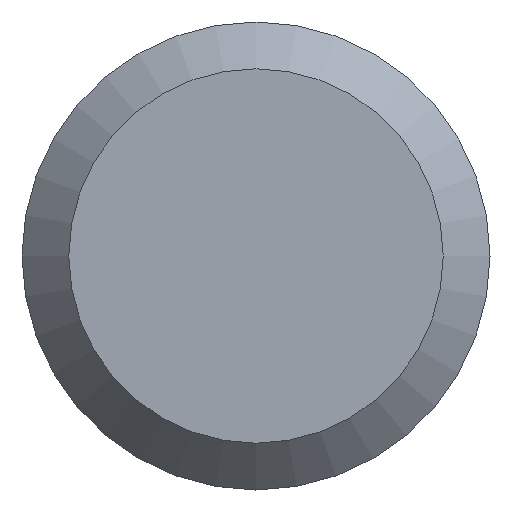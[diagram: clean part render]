
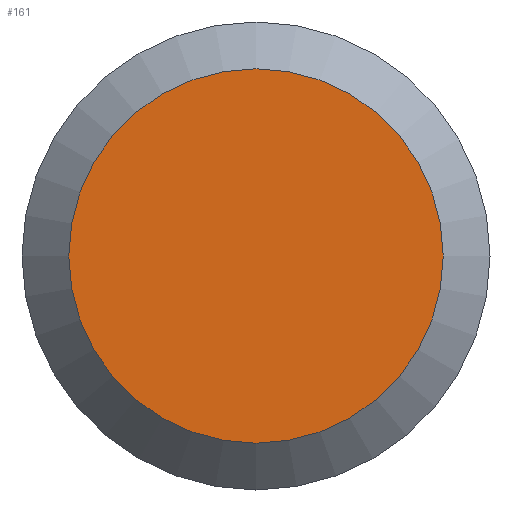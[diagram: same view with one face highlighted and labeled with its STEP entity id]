
A CAD part, left-side view. The second image highlights one B-rep face of the part: STEP entity #161.
In plain terms, the highlighted planar face has unit normal (-1, 0, 0).
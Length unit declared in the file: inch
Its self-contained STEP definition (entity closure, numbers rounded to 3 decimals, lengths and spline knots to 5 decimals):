
#21 = ORIENTED_EDGE ( 'NONE', *, *, #211, .T. ) ;
#31 = EDGE_LOOP ( 'NONE', ( #21 ) ) ;
#74 = VERTEX_POINT ( 'NONE', #86 ) ;
#86 = CARTESIAN_POINT ( 'NONE',  ( 0., 0., -0.0784 ) ) ;
#139 = AXIS2_PLACEMENT_3D ( 'NONE', #154, #178, #155 ) ;
#154 = CARTESIAN_POINT ( 'NONE',  ( 0., 0., 0. ) ) ;
#155 = DIRECTION ( 'NONE',  ( 0., 0., -1. ) ) ;
#157 = AXIS2_PLACEMENT_3D ( 'NONE', #194, #210, #228 ) ;
#161 = ADVANCED_FACE ( 'NONE', ( #171 ), #186, .F. ) ;
#171 = FACE_OUTER_BOUND ( 'NONE', #31, .T. ) ;
#178 = DIRECTION ( 'NONE',  ( -1., 0., 0. ) ) ;
#186 = PLANE ( 'NONE',  #157 ) ;
#194 = CARTESIAN_POINT ( 'NONE',  ( 0., 0.098, 0. ) ) ;
#210 = DIRECTION ( 'NONE',  ( 1., 0., 0. ) ) ;
#211 = EDGE_CURVE ( 'NONE', #74, #74, #227, .T. ) ;
#227 = CIRCLE ( 'NONE', #139, 0.0784 ) ;
#228 = DIRECTION ( 'NONE',  ( 0., 0., -1. ) ) ;
